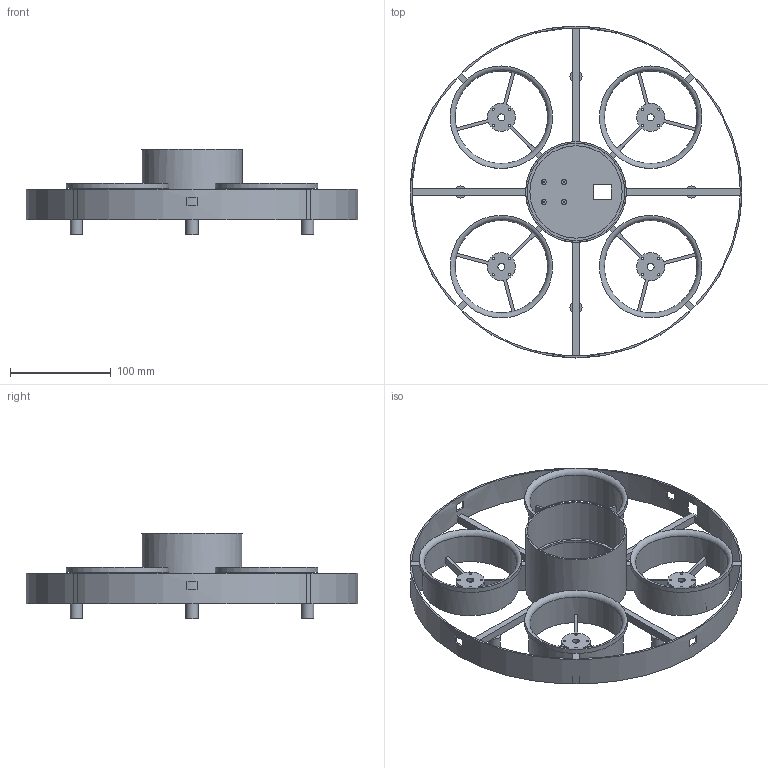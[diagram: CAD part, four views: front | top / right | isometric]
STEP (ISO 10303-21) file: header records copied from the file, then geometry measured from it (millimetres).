
FILE_DESCRIPTION(('FreeCAD Model'),'2;1');
FILE_NAME('Open CASCADE Shape Model','2026-10-22T12:16:51',('FreeCAD'),( 'FreeCAD'),'Open CASCADE STEP processor 8.0','FreeCAD','Unknown');
FILE_SCHEMA(('AUTOMOTIVE_DESIGN { 1 0 10303 214 1 1 1 1 }'));
Length unit declared in the file: millimetre
Products named in the file (1): Open CASCADE STEP translator 8.0 1
Bounding box: 330 x 330 x 85 mm (x, y, z)
Volume: 227755.2 mm3; surface area: 251596 mm2
Topology: 1 solids, 1 shells, 210 faces, 627 edges, 413 vertices
Faces by surface type: plane 141, cylinder 65, torus 4
Full cylindrical faces by diameter (mm): 1.8 x4, 2.2 x16, 5 x4, 7 x4, 12 x4, 91.8 x1, 92 x4, 94.4 x4, 96.8 x2, 100 x1, 102 x4, 330 x1
Entity records: 7330 total; most frequent: DIRECTION 1294, ORIENTED_EDGE 1254, CARTESIAN_POINT 1251, EDGE_CURVE 627, AXIS2_PLACEMENT_3D 456, VERTEX_POINT 413, LINE 382, VECTOR 382
